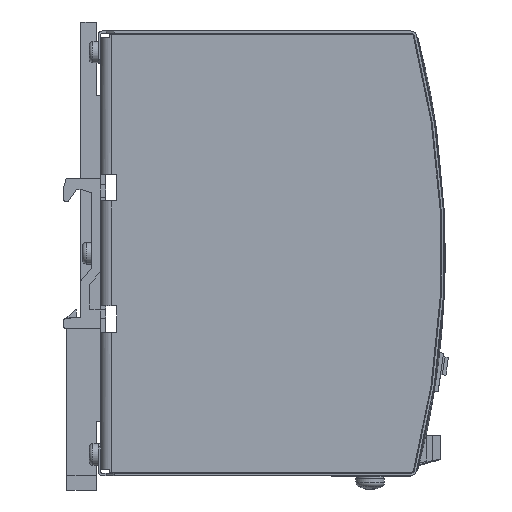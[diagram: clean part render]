
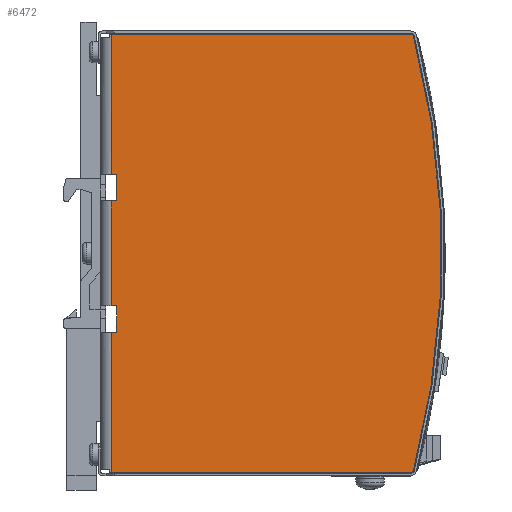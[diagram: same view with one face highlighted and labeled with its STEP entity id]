
A CAD part, front view. The second image highlights one B-rep face of the part: STEP entity #6472.
In plain terms, the highlighted planar face has unit normal (0, -1, 0) as drawn and (0, 1, 0) by its records, which use the part's own axes.
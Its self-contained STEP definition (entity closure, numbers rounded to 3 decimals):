
#3130=CARTESIAN_POINT('',(3.,45.35,61.15));
#3131=VERTEX_POINT('',#3130);
#3139=CARTESIAN_POINT('',(3.,45.35,22.1));
#3140=VERTEX_POINT('',#3139);
#3141=CARTESIAN_POINT('',(3.,45.35,22.1));
#3142=DIRECTION('',(0.0,0.0,1.0));
#3143=VECTOR('',#3142,39.05);
#3144=LINE('',#3141,#3143);
#3145=EDGE_CURVE('',#3140,#3131,#3144,.T.);
#3271=CARTESIAN_POINT('',(86.693,45.35,61.15));
#3272=VERTEX_POINT('',#3271);
#3279=CARTESIAN_POINT('',(3.,45.35,61.15));
#3280=DIRECTION('',(1.0,0.0,0.0));
#3281=VECTOR('',#3280,83.693);
#3282=LINE('',#3279,#3281);
#3283=EDGE_CURVE('',#3131,#3272,#3282,.T.);
#5725=CARTESIAN_POINT('',(3.,45.35,14.6));
#5726=VERTEX_POINT('',#5725);
#5757=CARTESIAN_POINT('',(4.5,45.35,14.6));
#5758=VERTEX_POINT('',#5757);
#5765=CARTESIAN_POINT('',(3.,45.35,14.6));
#5766=DIRECTION('',(1.0,0.0,0.0));
#5767=VECTOR('',#5766,1.5);
#5768=LINE('',#5765,#5767);
#5769=EDGE_CURVE('',#5726,#5758,#5768,.T.);
#5843=CARTESIAN_POINT('',(4.5,45.35,22.1));
#5844=VERTEX_POINT('',#5843);
#5845=CARTESIAN_POINT('',(4.5,45.35,22.1));
#5846=DIRECTION('',(-1.0,0.0,0.0));
#5847=VECTOR('',#5846,1.5);
#5848=LINE('',#5845,#5847);
#5849=EDGE_CURVE('',#5844,#3140,#5848,.T.);
#5882=CARTESIAN_POINT('',(4.5,45.35,14.6));
#5883=DIRECTION('',(0.0,0.0,1.0));
#5884=VECTOR('',#5883,7.5);
#5885=LINE('',#5882,#5884);
#5886=EDGE_CURVE('',#5758,#5844,#5885,.T.);
#5954=CARTESIAN_POINT('',(3.,45.35,-22.1));
#5955=VERTEX_POINT('',#5954);
#5978=CARTESIAN_POINT('',(4.5,45.35,-22.1));
#5979=VERTEX_POINT('',#5978);
#5986=CARTESIAN_POINT('',(3.,45.35,-22.1));
#5987=DIRECTION('',(1.0,0.0,0.0));
#5988=VECTOR('',#5987,1.5);
#5989=LINE('',#5986,#5988);
#5990=EDGE_CURVE('',#5955,#5979,#5989,.T.);
#6065=CARTESIAN_POINT('',(3.,45.35,-14.6));
#6066=VERTEX_POINT('',#6065);
#6074=CARTESIAN_POINT('',(4.5,45.35,-14.6));
#6075=VERTEX_POINT('',#6074);
#6076=CARTESIAN_POINT('',(4.5,45.35,-14.6));
#6077=DIRECTION('',(-1.0,0.0,0.0));
#6078=VECTOR('',#6077,1.5);
#6079=LINE('',#6076,#6078);
#6080=EDGE_CURVE('',#6075,#6066,#6079,.T.);
#6121=CARTESIAN_POINT('',(4.5,45.35,-22.1));
#6122=DIRECTION('',(0.0,0.0,1.0));
#6123=VECTOR('',#6122,7.5);
#6124=LINE('',#6121,#6123);
#6125=EDGE_CURVE('',#5979,#6075,#6124,.T.);
#6381=CARTESIAN_POINT('',(3.,45.35,-61.15));
#6382=VERTEX_POINT('',#6381);
#6383=CARTESIAN_POINT('',(3.,45.35,-61.15));
#6384=DIRECTION('',(0.0,0.0,1.0));
#6385=VECTOR('',#6384,39.05);
#6386=LINE('',#6383,#6385);
#6387=EDGE_CURVE('',#6382,#5955,#6386,.T.);
#6406=CARTESIAN_POINT('',(3.,45.35,-14.6));
#6407=DIRECTION('',(0.0,0.0,1.0));
#6408=VECTOR('',#6407,29.2);
#6409=LINE('',#6406,#6408);
#6410=EDGE_CURVE('',#6066,#5726,#6409,.T.);
#6422=CARTESIAN_POINT('',(0.,45.35,-61.15));
#6423=DIRECTION('',(0.0,1.0,0.0));
#6424=DIRECTION('',(0.0,0.0,1.0));
#6425=AXIS2_PLACEMENT_3D('',#6422,#6423,#6424);
#6426=PLANE('',#6425);
#6427=ORIENTED_EDGE('',*,*,#5769,.T.);
#6428=ORIENTED_EDGE('',*,*,#5886,.T.);
#6429=ORIENTED_EDGE('',*,*,#5849,.T.);
#6430=ORIENTED_EDGE('',*,*,#3145,.T.);
#6431=ORIENTED_EDGE('',*,*,#3283,.T.);
#6432=CARTESIAN_POINT('',(87.177,45.35,60.777));
#6433=VERTEX_POINT('',#6432);
#6434=CARTESIAN_POINT('',(86.693,45.35,60.65));
#6435=DIRECTION('',(0.0,-1.0,0.0));
#6436=DIRECTION('',(0.611,0.0,0.792));
#6437=AXIS2_PLACEMENT_3D('',#6434,#6435,#6436);
#6438=CIRCLE('',#6437,0.5);
#6439=EDGE_CURVE('',#6433,#3272,#6438,.T.);
#6440=ORIENTED_EDGE('',*,*,#6439,.F.);
#6441=CARTESIAN_POINT('',(87.177,45.35,-60.777));
#6442=VERTEX_POINT('',#6441);
#6443=CARTESIAN_POINT('',(-145.0,45.35,0.));
#6444=DIRECTION('',(0.0,1.0,0.0));
#6445=DIRECTION('',(-0.967,0.0,-0.255));
#6446=AXIS2_PLACEMENT_3D('',#6443,#6444,#6445);
#6447=CIRCLE('',#6446,240.);
#6448=EDGE_CURVE('',#6433,#6442,#6447,.T.);
#6449=ORIENTED_EDGE('',*,*,#6448,.T.);
#6450=CARTESIAN_POINT('',(86.693,45.35,-61.15));
#6451=VERTEX_POINT('',#6450);
#6452=CARTESIAN_POINT('',(86.693,45.35,-60.65));
#6453=DIRECTION('',(0.0,-1.0,0.0));
#6454=DIRECTION('',(0.611,0.0,-0.792));
#6455=AXIS2_PLACEMENT_3D('',#6452,#6453,#6454);
#6456=CIRCLE('',#6455,0.5);
#6457=EDGE_CURVE('',#6451,#6442,#6456,.T.);
#6458=ORIENTED_EDGE('',*,*,#6457,.F.);
#6459=CARTESIAN_POINT('',(3.,45.35,-61.15));
#6460=DIRECTION('',(1.0,0.0,0.0));
#6461=VECTOR('',#6460,83.693);
#6462=LINE('',#6459,#6461);
#6463=EDGE_CURVE('',#6382,#6451,#6462,.T.);
#6464=ORIENTED_EDGE('',*,*,#6463,.F.);
#6465=ORIENTED_EDGE('',*,*,#6387,.T.);
#6466=ORIENTED_EDGE('',*,*,#5990,.T.);
#6467=ORIENTED_EDGE('',*,*,#6125,.T.);
#6468=ORIENTED_EDGE('',*,*,#6080,.T.);
#6469=ORIENTED_EDGE('',*,*,#6410,.T.);
#6470=EDGE_LOOP('',(#6427,#6428,#6429,#6430,#6431,#6440,#6449,#6458,#6464,#6465,#6466,#6467,#6468,#6469));
#6471=FACE_OUTER_BOUND('',#6470,.T.);
#6472=ADVANCED_FACE('',(#6471),#6426,.T.);
